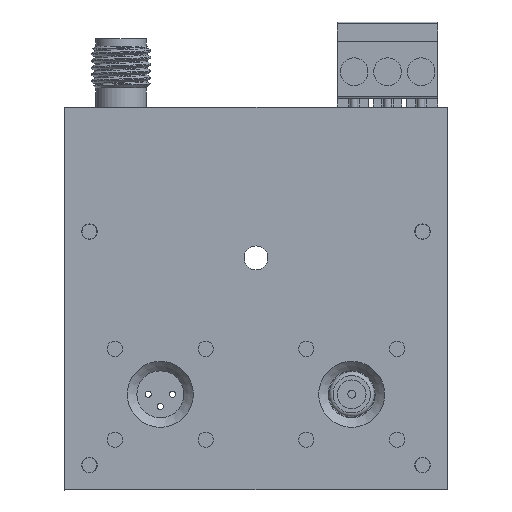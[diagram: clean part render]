
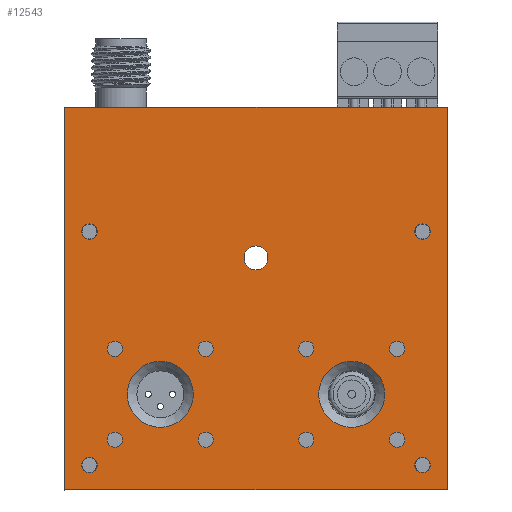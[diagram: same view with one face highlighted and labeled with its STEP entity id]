
A CAD part, front view. The second image highlights one B-rep face of the part: STEP entity #12543.
In plain terms, the highlighted planar face has unit normal (0, -1, 0) as drawn and (0, 0, -1) by its records, which use the part's own axes.
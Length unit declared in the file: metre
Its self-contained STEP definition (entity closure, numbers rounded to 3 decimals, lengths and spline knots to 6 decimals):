
#689=CIRCLE('',#13663,0.00345);
#690=CIRCLE('',#13664,0.00345);
#691=CIRCLE('',#13665,0.0008);
#692=CIRCLE('',#13666,0.0008);
#693=CIRCLE('',#13667,0.0008);
#694=CIRCLE('',#13668,0.0008);
#695=CIRCLE('',#13669,0.0008);
#696=CIRCLE('',#13670,0.0008);
#697=CIRCLE('',#13671,0.0008);
#698=CIRCLE('',#13672,0.0008);
#699=CIRCLE('',#13673,0.00125);
#700=CIRCLE('',#13674,0.0008);
#701=CIRCLE('',#13675,0.0008);
#702=CIRCLE('',#13676,0.0008);
#703=CIRCLE('',#13677,0.0008);
#1176=LINE('',#21146,#2289);
#1177=LINE('',#21149,#2290);
#1178=LINE('',#21151,#2291);
#1179=LINE('',#21153,#2292);
#2289=VECTOR('',#15408,1.);
#2290=VECTOR('',#15409,1.);
#2291=VECTOR('',#15410,1.);
#2292=VECTOR('',#15411,1.);
#3738=ORIENTED_EDGE('',*,*,#7091,.T.);
#3739=ORIENTED_EDGE('',*,*,#7092,.T.);
#3740=ORIENTED_EDGE('',*,*,#7093,.F.);
#3741=ORIENTED_EDGE('',*,*,#7094,.F.);
#3742=ORIENTED_EDGE('',*,*,#7095,.F.);
#3743=ORIENTED_EDGE('',*,*,#7096,.F.);
#3744=ORIENTED_EDGE('',*,*,#7097,.F.);
#3745=ORIENTED_EDGE('',*,*,#7098,.F.);
#3746=ORIENTED_EDGE('',*,*,#7099,.F.);
#3747=ORIENTED_EDGE('',*,*,#7100,.F.);
#3748=ORIENTED_EDGE('',*,*,#7101,.F.);
#3749=ORIENTED_EDGE('',*,*,#7102,.F.);
#3750=ORIENTED_EDGE('',*,*,#7103,.F.);
#3751=ORIENTED_EDGE('',*,*,#7104,.F.);
#3752=ORIENTED_EDGE('',*,*,#7105,.F.);
#3753=ORIENTED_EDGE('',*,*,#7106,.T.);
#3754=ORIENTED_EDGE('',*,*,#7107,.T.);
#3755=ORIENTED_EDGE('',*,*,#7108,.F.);
#3756=ORIENTED_EDGE('',*,*,#7109,.F.);
#7091=EDGE_CURVE('',#8830,#8830,#689,.T.);
#7092=EDGE_CURVE('',#8831,#8831,#690,.T.);
#7093=EDGE_CURVE('',#8832,#8832,#691,.T.);
#7094=EDGE_CURVE('',#8833,#8833,#692,.T.);
#7095=EDGE_CURVE('',#8834,#8834,#693,.T.);
#7096=EDGE_CURVE('',#8835,#8835,#694,.T.);
#7097=EDGE_CURVE('',#8836,#8836,#695,.T.);
#7098=EDGE_CURVE('',#8837,#8837,#696,.T.);
#7099=EDGE_CURVE('',#8838,#8838,#697,.T.);
#7100=EDGE_CURVE('',#8839,#8839,#698,.T.);
#7101=EDGE_CURVE('',#8840,#8840,#699,.T.);
#7102=EDGE_CURVE('',#8841,#8841,#700,.T.);
#7103=EDGE_CURVE('',#8842,#8842,#701,.T.);
#7104=EDGE_CURVE('',#8843,#8843,#702,.T.);
#7105=EDGE_CURVE('',#8844,#8844,#703,.T.);
#7106=EDGE_CURVE('',#8845,#8846,#1176,.T.);
#7107=EDGE_CURVE('',#8846,#8847,#1177,.T.);
#7108=EDGE_CURVE('',#8848,#8847,#1178,.T.);
#7109=EDGE_CURVE('',#8845,#8848,#1179,.T.);
#8830=VERTEX_POINT('',#21117);
#8831=VERTEX_POINT('',#21119);
#8832=VERTEX_POINT('',#21121);
#8833=VERTEX_POINT('',#21123);
#8834=VERTEX_POINT('',#21125);
#8835=VERTEX_POINT('',#21127);
#8836=VERTEX_POINT('',#21129);
#8837=VERTEX_POINT('',#21131);
#8838=VERTEX_POINT('',#21133);
#8839=VERTEX_POINT('',#21135);
#8840=VERTEX_POINT('',#21137);
#8841=VERTEX_POINT('',#21139);
#8842=VERTEX_POINT('',#21141);
#8843=VERTEX_POINT('',#21143);
#8844=VERTEX_POINT('',#21145);
#8845=VERTEX_POINT('',#21147);
#8846=VERTEX_POINT('',#21148);
#8847=VERTEX_POINT('',#21150);
#8848=VERTEX_POINT('',#21152);
#10170=EDGE_LOOP('',(#3738));
#10171=EDGE_LOOP('',(#3739));
#10172=EDGE_LOOP('',(#3740));
#10173=EDGE_LOOP('',(#3741));
#10174=EDGE_LOOP('',(#3742));
#10175=EDGE_LOOP('',(#3743));
#10176=EDGE_LOOP('',(#3744));
#10177=EDGE_LOOP('',(#3745));
#10178=EDGE_LOOP('',(#3746));
#10179=EDGE_LOOP('',(#3747));
#10180=EDGE_LOOP('',(#3748));
#10181=EDGE_LOOP('',(#3749));
#10182=EDGE_LOOP('',(#3750));
#10183=EDGE_LOOP('',(#3751));
#10184=EDGE_LOOP('',(#3752));
#10185=EDGE_LOOP('',(#3753,#3754,#3755,#3756));
#11201=FACE_BOUND('',#10170,.T.);
#11202=FACE_BOUND('',#10171,.T.);
#11203=FACE_BOUND('',#10172,.T.);
#11204=FACE_BOUND('',#10173,.T.);
#11205=FACE_BOUND('',#10174,.T.);
#11206=FACE_BOUND('',#10175,.T.);
#11207=FACE_BOUND('',#10176,.T.);
#11208=FACE_BOUND('',#10177,.T.);
#11209=FACE_BOUND('',#10178,.T.);
#11210=FACE_BOUND('',#10179,.T.);
#11211=FACE_BOUND('',#10180,.T.);
#11212=FACE_BOUND('',#10181,.T.);
#11213=FACE_BOUND('',#10182,.T.);
#11214=FACE_BOUND('',#10183,.T.);
#11215=FACE_BOUND('',#10184,.T.);
#11216=FACE_BOUND('',#10185,.T.);
#12050=PLANE('',#13662);
#12543=ADVANCED_FACE('',(#11201,#11202,#11203,#11204,#11205,#11206,#11207,
#11208,#11209,#11210,#11211,#11212,#11213,#11214,#11215,#11216),#12050,
 .F.);
#13662=AXIS2_PLACEMENT_3D('',#21115,#15376,#15377);
#13663=AXIS2_PLACEMENT_3D('',#21116,#15378,#15379);
#13664=AXIS2_PLACEMENT_3D('',#21118,#15380,#15381);
#13665=AXIS2_PLACEMENT_3D('',#21120,#15382,#15383);
#13666=AXIS2_PLACEMENT_3D('',#21122,#15384,#15385);
#13667=AXIS2_PLACEMENT_3D('',#21124,#15386,#15387);
#13668=AXIS2_PLACEMENT_3D('',#21126,#15388,#15389);
#13669=AXIS2_PLACEMENT_3D('',#21128,#15390,#15391);
#13670=AXIS2_PLACEMENT_3D('',#21130,#15392,#15393);
#13671=AXIS2_PLACEMENT_3D('',#21132,#15394,#15395);
#13672=AXIS2_PLACEMENT_3D('',#21134,#15396,#15397);
#13673=AXIS2_PLACEMENT_3D('',#21136,#15398,#15399);
#13674=AXIS2_PLACEMENT_3D('',#21138,#15400,#15401);
#13675=AXIS2_PLACEMENT_3D('',#21140,#15402,#15403);
#13676=AXIS2_PLACEMENT_3D('',#21142,#15404,#15405);
#13677=AXIS2_PLACEMENT_3D('',#21144,#15406,#15407);
#15376=DIRECTION('',(0.,0.,1.));
#15377=DIRECTION('',(1.,0.,0.));
#15378=DIRECTION('',(0.,0.,1.));
#15379=DIRECTION('',(1.,0.,0.));
#15380=DIRECTION('',(0.,0.,1.));
#15381=DIRECTION('',(1.,0.,0.));
#15382=DIRECTION('',(0.,0.,-1.));
#15383=DIRECTION('',(-1.,0.,0.));
#15384=DIRECTION('',(0.,0.,-1.));
#15385=DIRECTION('',(-1.,0.,0.));
#15386=DIRECTION('',(0.,0.,-1.));
#15387=DIRECTION('',(-1.,0.,0.));
#15388=DIRECTION('',(0.,0.,-1.));
#15389=DIRECTION('',(-1.,0.,0.));
#15390=DIRECTION('',(0.,0.,-1.));
#15391=DIRECTION('',(-1.,0.,0.));
#15392=DIRECTION('',(0.,0.,-1.));
#15393=DIRECTION('',(-1.,0.,0.));
#15394=DIRECTION('',(0.,0.,-1.));
#15395=DIRECTION('',(-1.,0.,0.));
#15396=DIRECTION('',(0.,0.,-1.));
#15397=DIRECTION('',(-1.,0.,0.));
#15398=DIRECTION('',(0.,0.,-1.));
#15399=DIRECTION('',(-1.,0.,0.));
#15400=DIRECTION('',(0.,0.,-1.));
#15401=DIRECTION('',(-1.,0.,0.));
#15402=DIRECTION('',(0.,0.,-1.));
#15403=DIRECTION('',(-1.,0.,0.));
#15404=DIRECTION('',(0.,0.,-1.));
#15405=DIRECTION('',(-1.,0.,0.));
#15406=DIRECTION('',(0.,0.,-1.));
#15407=DIRECTION('',(-1.,0.,0.));
#15408=DIRECTION('',(0.,-1.,0.));
#15409=DIRECTION('',(-1.,0.,0.));
#15410=DIRECTION('',(0.,-1.,0.));
#15411=DIRECTION('',(-1.,0.,0.));
#21115=CARTESIAN_POINT('',(0.,0.,0.));
#21116=CARTESIAN_POINT('',(-0.01,0.01,0.));
#21117=CARTESIAN_POINT('',(-0.00655,0.01,0.));
#21118=CARTESIAN_POINT('',(0.01,0.01,0.));
#21119=CARTESIAN_POINT('',(0.01345,0.01,0.));
#21120=CARTESIAN_POINT('',(-0.00525,0.00525,0.));
#21121=CARTESIAN_POINT('',(-0.00605,0.00525,0.));
#21122=CARTESIAN_POINT('',(0.00525,0.00525,0.));
#21123=CARTESIAN_POINT('',(0.00445,0.00525,0.));
#21124=CARTESIAN_POINT('',(0.01475,0.00525,0.));
#21125=CARTESIAN_POINT('',(0.01395,0.00525,0.));
#21126=CARTESIAN_POINT('',(0.01475,0.01475,0.));
#21127=CARTESIAN_POINT('',(0.01395,0.01475,0.));
#21128=CARTESIAN_POINT('',(-0.00525,0.01475,0.));
#21129=CARTESIAN_POINT('',(-0.00605,0.01475,0.));
#21130=CARTESIAN_POINT('',(-0.01475,0.01475,0.));
#21131=CARTESIAN_POINT('',(-0.01555,0.01475,0.));
#21132=CARTESIAN_POINT('',(0.00525,0.01475,0.));
#21133=CARTESIAN_POINT('',(0.00445,0.01475,0.));
#21134=CARTESIAN_POINT('',(-0.01475,0.00525,0.));
#21135=CARTESIAN_POINT('',(-0.01555,0.00525,0.));
#21136=CARTESIAN_POINT('',(0.,-0.00425,0.));
#21137=CARTESIAN_POINT('',(-0.00125,-0.00425,0.));
#21138=CARTESIAN_POINT('',(0.0174,0.0174,0.));
#21139=CARTESIAN_POINT('',(0.0166,0.0174,0.));
#21140=CARTESIAN_POINT('',(0.0174,-0.007,0.));
#21141=CARTESIAN_POINT('',(0.0166,-0.007,0.));
#21142=CARTESIAN_POINT('',(-0.0174,-0.007,0.));
#21143=CARTESIAN_POINT('',(-0.0182,-0.007,0.));
#21144=CARTESIAN_POINT('',(-0.0174,0.0174,0.));
#21145=CARTESIAN_POINT('',(-0.0182,0.0174,0.));
#21146=CARTESIAN_POINT('',(0.02,0.,0.));
#21147=CARTESIAN_POINT('',(0.02,0.02,0.));
#21148=CARTESIAN_POINT('',(0.02,-0.02,0.));
#21149=CARTESIAN_POINT('',(-0.00925,-0.02,0.));
#21150=CARTESIAN_POINT('',(-0.02,-0.02,0.));
#21151=CARTESIAN_POINT('',(-0.02,0.,0.));
#21152=CARTESIAN_POINT('',(-0.02,0.02,0.));
#21153=CARTESIAN_POINT('',(-0.01,0.02,0.));
